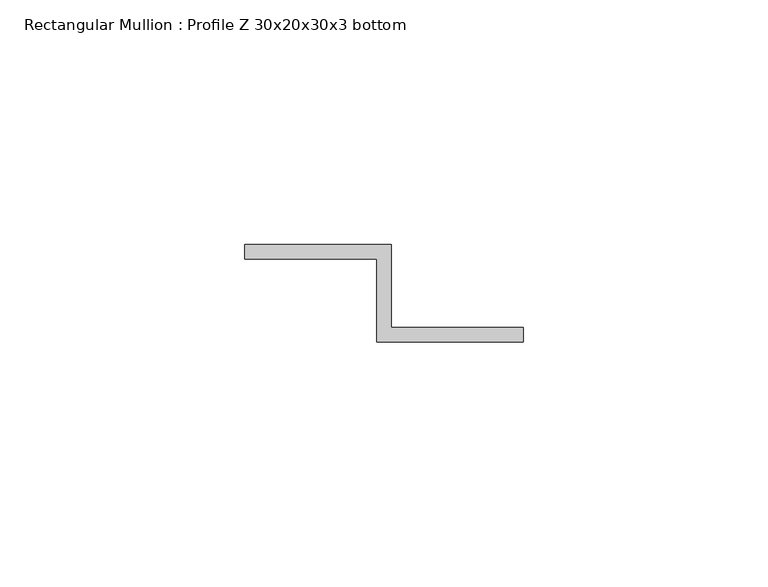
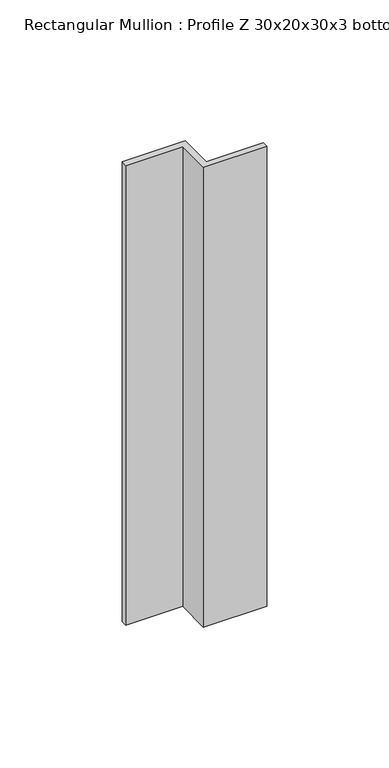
"""IFC4 building model written with IfcOpenShell, lengths in millimetres: member geometry, Rectangular Mullion : Profile Z 30x20x30x3 bottom."""

import ifcopenshell
import ifcopenshell.guid

model = None  # the IFC model being written
_history = None  # IfcOwnerHistory: only IFC2X3 demands one
_inside = {}  # id of a spatial element -> (the spatial element, [elements in it])
_under = {}  # id of a project, library or spatial element -> (it, [spatial elements below it])
_declared = {}  # id of a project -> (the project, [libraries it declares])
_typed = {}  # id of a type object -> (the type object, [elements of that type])
_made_of = {}  # id of a material, layer set ... -> (it, [elements and type objects made of it])


def new_model(schema):
    """Start an empty IFC model of exactly this schema.

    Asked for "IFC4X3", IfcOpenShell would pick the latest addendum, in which some entities
    have other attributes; the version numbers below select the first issue.
    IFC2X3 requires an IfcOwnerHistory on every rooted entity: one is made here for all.
    """
    global model, _history
    if schema == "IFC4X3":
        model = ifcopenshell.file(schema_version=(4, 3, 0, 0))
    else:
        model = ifcopenshell.file(schema=schema)
    _inside.clear()
    _under.clear()
    _declared.clear()
    _typed.clear()
    _made_of.clear()
    _history = None
    if model.schema == "IFC2X3":
        org = make("IfcOrganization", Name="unknown")
        user = make(
            "IfcPersonAndOrganization",
            ThePerson=make("IfcPerson", FamilyName="unknown"),
            TheOrganization=org,
        )
        app = make(
            "IfcApplication",
            ApplicationDeveloper=org,
            Version="unknown",
            ApplicationFullName="unknown",
            ApplicationIdentifier="unknown",
        )
        _history = make(
            "IfcOwnerHistory",
            OwningUser=user,
            OwningApplication=app,
            ChangeAction="ADDED",
            CreationDate=0,
        )
    return model


def make(cls, **values):
    """One entity of the class cls with the attributes given. An attribute that is None is left unset."""
    return model.create_entity(
        cls, **{name: value for name, value in values.items() if value is not None}
    )


def rooted(cls, **values):
    """An entity with a GlobalId (a new one), such as an element, a storey or a relation."""
    return make(cls, GlobalId=ifcopenshell.guid.new(), OwnerHistory=_history, **values)


def si_unit(unit_type, name, prefix=None):
    """IfcSIUnit, for example si_unit("LENGTHUNIT", "METRE", prefix="MILLI")."""
    return make("IfcSIUnit", UnitType=unit_type, Prefix=prefix, Name=name)


def assignment(units):
    """IfcUnitAssignment: the units of a project."""
    return None if units is None else make("IfcUnitAssignment", Units=units)


def point(xyz):
    """IfcCartesianPoint."""
    return None if xyz is None else make("IfcCartesianPoint", Coordinates=xyz)


def direction(xyz):
    """IfcDirection."""
    return None if xyz is None else make("IfcDirection", DirectionRatios=xyz)


def frame(location, z_axis=None, x_axis=None):
    """IfcAxis2Placement3D, a coordinate frame: its origin and axes. An axis left out is left unset."""
    return make(
        "IfcAxis2Placement3D",
        Location=point(location),
        Axis=direction(z_axis),
        RefDirection=direction(x_axis),
    )


def origin():
    """The frame at (0, 0, 0) with its axes left unset."""
    return frame((0.0, 0.0, 0.0))


def place(relative_to, where):
    """IfcLocalPlacement: puts the frame where relative to a parent placement (None: the world)."""
    return make(
        "IfcLocalPlacement", PlacementRelTo=relative_to, RelativePlacement=where
    )


def context(
    kind, dimensions, precision=None, world=None, true_north=None, identifier=None
):
    """IfcGeometricRepresentationContext, for example the 3D "Model" context."""
    return make(
        "IfcGeometricRepresentationContext",
        ContextIdentifier=identifier,
        ContextType=kind,
        CoordinateSpaceDimension=dimensions,
        Precision=precision,
        WorldCoordinateSystem=world,
        TrueNorth=true_north,
    )


def project(units=None, contexts=None):
    """IfcProject with its units and contexts."""
    return rooted(
        "IfcProject",
        Name="project",
        RepresentationContexts=contexts,
        UnitsInContext=assignment(units),
    )


def spatial(cls, under=None, at=None, **own):
    """A site, building, storey or space (cls), placed at a placement, below another one or the project."""
    s = rooted(cls, ObjectPlacement=at, **own)
    if under is not None:
        _under.setdefault(under.id(), (under, []))[1].append(s)
    return s


def polyline(points):
    """IfcPolyline through the points."""
    return make("IfcPolyline", Points=[point(p) for p in points])


def outline(outer, holes=None, kind="AREA"):
    """IfcArbitraryClosedProfileDef: a profile drawn as a closed curve; with holes, ...WithVoids."""
    if holes is None:
        return make("IfcArbitraryClosedProfileDef", ProfileType=kind, OuterCurve=outer)
    return make(
        "IfcArbitraryProfileDefWithVoids",
        ProfileType=kind,
        OuterCurve=outer,
        InnerCurves=holes,
    )


def extrude(swept, where, along, depth):
    """IfcExtrudedAreaSolid: the profile swept, set in the frame where, extruded along a direction by depth."""
    return make(
        "IfcExtrudedAreaSolid",
        SweptArea=swept,
        Position=where,
        ExtrudedDirection=direction(along),
        Depth=depth,
    )


def shape(context_of_items, identifier, shape_type, items):
    """IfcShapeRepresentation: the items that make up one representation, for example the "Body"."""
    return make(
        "IfcShapeRepresentation",
        ContextOfItems=context_of_items,
        RepresentationIdentifier=identifier,
        RepresentationType=shape_type,
        Items=items,
    )


def source(mapping_origin, context_of_items, identifier, shape_type, items):
    """IfcRepresentationMap: a shape defined once, which mapped items show again and again."""
    return make(
        "IfcRepresentationMap",
        MappingOrigin=mapping_origin,
        MappedRepresentation=shape(context_of_items, identifier, shape_type, items),
    )


def transform(
    local_origin,
    x_axis=None,
    y_axis=None,
    z_axis=None,
    scale=None,
    scale2=None,
    scale3=None,
    uniform=True,
):
    """IfcCartesianTransformationOperator3D, or its non-uniform kind. x_axis, y_axis, z_axis: its Axis1, 2, 3."""
    if uniform:
        return make(
            "IfcCartesianTransformationOperator3D",
            Axis1=direction(x_axis),
            Axis2=direction(y_axis),
            LocalOrigin=point(local_origin),
            Scale=scale,
            Axis3=direction(z_axis),
        )
    return make(
        "IfcCartesianTransformationOperator3DnonUniform",
        Axis1=direction(x_axis),
        Axis2=direction(y_axis),
        LocalOrigin=point(local_origin),
        Scale=scale,
        Axis3=direction(z_axis),
        Scale2=scale2,
        Scale3=scale3,
    )


def mapped(mapping_source, mapping_target):
    """IfcMappedItem: shows the shape of a source again, moved by a transform."""
    return make(
        "IfcMappedItem", MappingSource=mapping_source, MappingTarget=mapping_target
    )


def made_of(thing, what):
    """Note that an element or type object is made of a material, layer set ...; save() writes the relation."""
    if what is not None:
        _made_of.setdefault(what.id(), (what, []))[1].append(thing)
    return thing


def element(
    cls,
    number,
    at=None,
    inside=None,
    cuts=None,
    type_object=None,
    material=None,
    context=None,
    identifier="Body",
    shape_type=None,
    held_by="IfcProductDefinitionShape",
    body=None,
    shapes=None,
    **own,
):
    """One element of the class cls, such as IfcWall. Its Tag is "e" and its number.

    at: its placement. inside: the storey or other place that contains it. cuts: it is an
    opening in that element (IfcRelVoidsElement). A single representation is given by context,
    identifier, shape_type and body (its items); several are given by shapes. held_by: the class
    of the entity that holds the representations. save() writes the other relations.
    """
    e = rooted(cls, Tag="e%d" % number, ObjectPlacement=at, **own)
    if body is not None:
        shapes = [shape(context, identifier, shape_type, body)]
    if shapes is not None:
        e.Representation = make(held_by, Representations=shapes)
    if inside is not None:
        _inside.setdefault(inside.id(), (inside, []))[1].append(e)
    if cuts is not None:
        rooted(
            "IfcRelVoidsElement", RelatingBuildingElement=cuts, RelatedOpeningElement=e
        )
    if type_object is not None:
        _typed.setdefault(type_object.id(), (type_object, []))[1].append(e)
    return made_of(e, material)


def aggregate(whole, parts):
    """IfcRelAggregates: a whole, such as a stair, and the parts it consists of."""
    return rooted("IfcRelAggregates", RelatingObject=whole, RelatedObjects=parts)


def save(model, path):
    """Write the relations noted so far, then the file.

    IfcRelAggregates (storeys below a building ...), IfcRelContainedInSpatialStructure (elements
    in a storey), IfcRelDefinesByType, IfcRelAssociatesMaterial and IfcRelDeclares: one each for
    every whole, place, type object, material and project.
    """
    for whole, parts in _under.values():
        aggregate(whole, parts)
    for where, things in _inside.values():
        rooted(
            "IfcRelContainedInSpatialStructure",
            RelatedElements=things,
            RelatingStructure=where,
        )
    for kind, things in _typed.values():
        rooted("IfcRelDefinesByType", RelatedObjects=things, RelatingType=kind)
    for what, things in _made_of.values():
        rooted("IfcRelAssociatesMaterial", RelatedObjects=things, RelatingMaterial=what)
    for by, libraries in _declared.values():
        rooted("IfcRelDeclares", RelatingContext=by, RelatedDefinitions=libraries)
    model.write(path)


def rectangular_mullion_profile_z_30x20x30x3_bottom_3744114f(model_context):
    return source(origin(), model_context, "Body", "SweptSolid", [
        extrude(outline(polyline([(-30.5, -29.5), (-30.5, -46.5), (-3.5, -46.5), (-3.5, -49.5), (-33.5, -49.5), (-33.5, -32.5), (-60.5, -32.5), (-60.5, -29.5), (-30.5, -29.5)])), frame((0.0, 0.0, -230.0), z_axis=(0.0, 0.0, 1.0), x_axis=(1.0, 0.0, 0.0)), (0.0, 0.0, 1.0), 230.0),
    ])


if __name__ == "__main__":
    model = new_model("IFC4")
    model_context = context("Model", 3, world=origin())
    ifc_project = project(units=[si_unit("LENGTHUNIT", "METRE", prefix="MILLI")], contexts=[model_context])
    site = spatial("IfcSite", under=ifc_project)
    building = spatial("IfcBuilding", under=site)
    placement = place(None, origin())
    rectangular_mullion_profile_z_30x20x30x3_bottom_shape = rectangular_mullion_profile_z_30x20x30x3_bottom_3744114f(model_context)
    element("IfcMember", 1, ObjectType="Rectangular Mullion : Profile Z 30x20x30x3 bottom", at=placement, inside=building, context=model_context, shape_type="MappedRepresentation", body=[
        mapped(rectangular_mullion_profile_z_30x20x30x3_bottom_shape, transform((0.0, 0.0, 0.0), x_axis=(1.0, 0.0, 0.0), y_axis=(0.0, 1.0, 0.0), z_axis=(0.0, 0.0, 1.0))),
    ])
    save(model, "model.ifc")
